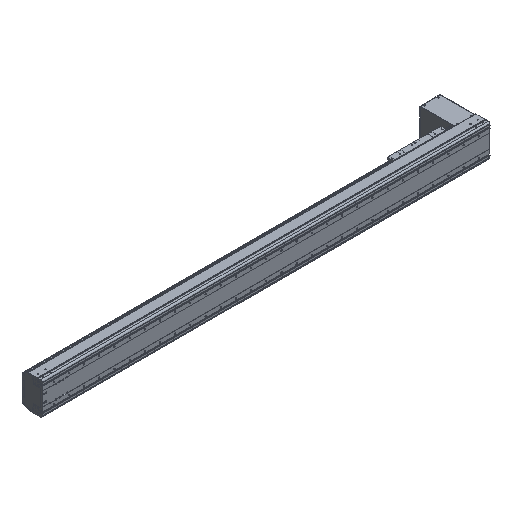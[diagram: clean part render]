
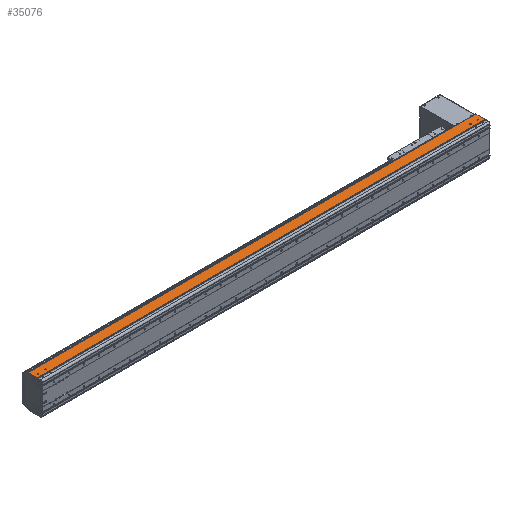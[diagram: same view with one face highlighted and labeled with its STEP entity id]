
A CAD part, isometric view. The second image highlights one B-rep face of the part: STEP entity #35076.
In plain terms, the highlighted planar face has unit normal (0, 0, 1).
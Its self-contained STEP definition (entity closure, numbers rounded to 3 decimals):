
#9352=DIRECTION('',(-1.,-0.006,-0.017));
#9353=VECTOR('',#9352,1.5);
#9354=CARTESIAN_POINT('',(1.5,94.,107.));
#9355=LINE('',#9354,#9353);
#9356=DIRECTION('',(-1.,0.,0.));
#9357=VECTOR('',#9356,2948.5);
#9358=CARTESIAN_POINT('',(0.,93.5,107.));
#9359=LINE('',#9358,#9357);
#9394=CARTESIAN_POINT('',(0.,93.992,106.974));
#9395=CARTESIAN_POINT('',(0.,93.906,
106.974));
#9396=CARTESIAN_POINT('',(0.,93.75,
107.013));
#9397=CARTESIAN_POINT('',(0.,93.581,107.));
#9398=CARTESIAN_POINT('',(0.,93.5,107.));
#9400=CARTESIAN_POINT('',(-2923.5,54.,107.));
#9401=DIRECTION('',(0.,0.,-1.));
#9402=DIRECTION('',(1.,0.,0.));
#9403=AXIS2_PLACEMENT_3D('',#9400,#9401,#9402);
#9405=CARTESIAN_POINT('',(-2923.5,54.,107.));
#9406=DIRECTION('',(0.,0.,-1.));
#9407=DIRECTION('',(-1.,0.,0.));
#9408=AXIS2_PLACEMENT_3D('',#9405,#9406,#9407);
#9410=CARTESIAN_POINT('',(-2873.5,54.,107.));
#9411=DIRECTION('',(0.,0.,-1.));
#9412=DIRECTION('',(1.,0.,0.));
#9413=AXIS2_PLACEMENT_3D('',#9410,#9411,#9412);
#9415=CARTESIAN_POINT('',(-2873.5,54.,107.));
#9416=DIRECTION('',(0.,0.,-1.));
#9417=DIRECTION('',(-1.,0.,0.));
#9418=AXIS2_PLACEMENT_3D('',#9415,#9416,#9417);
#9420=CARTESIAN_POINT('',(-23.5,54.,107.));
#9421=DIRECTION('',(0.,0.,-1.));
#9422=DIRECTION('',(1.,0.,0.));
#9423=AXIS2_PLACEMENT_3D('',#9420,#9421,#9422);
#9425=CARTESIAN_POINT('',(-23.5,54.,107.));
#9426=DIRECTION('',(0.,0.,-1.));
#9427=DIRECTION('',(-1.,0.,0.));
#9428=AXIS2_PLACEMENT_3D('',#9425,#9426,#9427);
#9430=CARTESIAN_POINT('',(-73.5,54.,107.));
#9431=DIRECTION('',(0.,0.,-1.));
#9432=DIRECTION('',(1.,0.,0.));
#9433=AXIS2_PLACEMENT_3D('',#9430,#9431,#9432);
#9435=CARTESIAN_POINT('',(-73.5,54.,107.));
#9436=DIRECTION('',(0.,0.,-1.));
#9437=DIRECTION('',(-1.,0.,0.));
#9438=AXIS2_PLACEMENT_3D('',#9435,#9436,#9437);
#9440=DIRECTION('',(0.,-1.,0.));
#9441=VECTOR('',#9440,2.55);
#9442=CARTESIAN_POINT('',(-2946.5,34.65,107.));
#9443=LINE('',#9442,#9441);
#9444=DIRECTION('',(0.,-1.,0.));
#9445=VECTOR('',#9444,58.85);
#9446=CARTESIAN_POINT('',(-2948.5,93.5,107.));
#9447=LINE('',#9446,#9445);
#9448=DIRECTION('',(0.,1.,0.));
#9449=VECTOR('',#9448,58.35);
#9450=CARTESIAN_POINT('',(1.5,35.65,107.));
#9451=LINE('',#9450,#9449);
#9452=DIRECTION('',(0.,1.,0.));
#9453=VECTOR('',#9452,3.55);
#9454=CARTESIAN_POINT('',(0.,32.1,107.));
#9455=LINE('',#9454,#9453);
#9456=DIRECTION('',(1.,0.,0.));
#9457=VECTOR('',#9456,2946.5);
#9458=CARTESIAN_POINT('',(-2946.5,32.1,107.));
#9459=LINE('',#9458,#9457);
#9568=DIRECTION('',(1.,0.,0.));
#9569=VECTOR('',#9568,2.);
#9570=CARTESIAN_POINT('',(-2948.5,34.65,107.));
#9571=LINE('',#9570,#9569);
#9592=DIRECTION('',(1.,0.,0.));
#9593=VECTOR('',#9592,1.5);
#9594=CARTESIAN_POINT('',(0.,35.65,107.));
#9595=LINE('',#9594,#9593);
#19426=CARTESIAN_POINT('',(1.5,94.,107.));
#19427=VERTEX_POINT('',#19426);
#19428=CARTESIAN_POINT('',(1.5,35.65,107.));
#19429=VERTEX_POINT('',#19428);
#19498=CARTESIAN_POINT('',(-2948.5,34.65,107.));
#19499=VERTEX_POINT('',#19498);
#19500=CARTESIAN_POINT('',(-2948.5,93.5,107.));
#19501=VERTEX_POINT('',#19500);
#19726=CARTESIAN_POINT('',(-2946.5,32.1,107.));
#19727=VERTEX_POINT('',#19726);
#19777=CARTESIAN_POINT('',(0.,32.1,107.));
#19779=VERTEX_POINT('',#19777);
#20464=CARTESIAN_POINT('',(-2921.,54.,107.));
#20465=CARTESIAN_POINT('',(-2926.,54.,107.));
#20466=VERTEX_POINT('',#20464);
#20467=VERTEX_POINT('',#20465);
#20468=CARTESIAN_POINT('',(-2871.,54.,107.));
#20469=CARTESIAN_POINT('',(-2876.,54.,107.));
#20470=VERTEX_POINT('',#20468);
#20471=VERTEX_POINT('',#20469);
#20472=CARTESIAN_POINT('',(-21.,54.,107.));
#20473=CARTESIAN_POINT('',(-26.,54.,107.));
#20474=VERTEX_POINT('',#20472);
#20475=VERTEX_POINT('',#20473);
#20476=CARTESIAN_POINT('',(-71.,54.,107.));
#20477=CARTESIAN_POINT('',(-76.,54.,107.));
#20478=VERTEX_POINT('',#20476);
#20479=VERTEX_POINT('',#20477);
#23018=CARTESIAN_POINT('',(0.,35.65,107.));
#23019=VERTEX_POINT('',#23018);
#23020=CARTESIAN_POINT('',(0.,93.975,106.923));
#23022=VERTEX_POINT('',#23020);
#23165=VERTEX_POINT('',#9398);
#23621=CARTESIAN_POINT('',(-2946.5,34.65,107.));
#23622=VERTEX_POINT('',#23621);
#35032=CARTESIAN_POINT('',(-1473.25,62.8,107.));
#35033=DIRECTION('',(0.,0.,1.));
#35034=DIRECTION('',(0.,-1.,0.));
#35035=AXIS2_PLACEMENT_3D('',#35032,#35033,#35034);
#35036=PLANE('',#35035);
#35037=ORIENTED_EDGE('',*,*,#25503,.F.);
#35039=ORIENTED_EDGE('',*,*,#35038,.F.);
#35040=ORIENTED_EDGE('',*,*,#27765,.F.);
#35041=ORIENTED_EDGE('',*,*,#35016,.F.);
#35042=ORIENTED_EDGE('',*,*,#35027,.F.);
#35043=ORIENTED_EDGE('',*,*,#35006,.F.);
#35044=ORIENTED_EDGE('',*,*,#24431,.F.);
#35046=ORIENTED_EDGE('',*,*,#35045,.F.);
#35047=ORIENTED_EDGE('',*,*,#26260,.F.);
#35049=ORIENTED_EDGE('',*,*,#35048,.F.);
#35050=EDGE_LOOP('',(#35037,#35039,#35040,#35041,#35042,#35043,#35044,#35046,
#35047,#35049));
#35051=FACE_OUTER_BOUND('',#35050,.F.);
#35053=ORIENTED_EDGE('',*,*,#35052,.F.);
#35055=ORIENTED_EDGE('',*,*,#35054,.F.);
#35056=EDGE_LOOP('',(#35053,#35055));
#35057=FACE_BOUND('',#35056,.F.);
#35059=ORIENTED_EDGE('',*,*,#35058,.F.);
#35061=ORIENTED_EDGE('',*,*,#35060,.F.);
#35062=EDGE_LOOP('',(#35059,#35061));
#35063=FACE_BOUND('',#35062,.F.);
#35065=ORIENTED_EDGE('',*,*,#35064,.F.);
#35067=ORIENTED_EDGE('',*,*,#35066,.F.);
#35068=EDGE_LOOP('',(#35065,#35067));
#35069=FACE_BOUND('',#35068,.F.);
#35071=ORIENTED_EDGE('',*,*,#35070,.F.);
#35073=ORIENTED_EDGE('',*,*,#35072,.F.);
#35074=EDGE_LOOP('',(#35071,#35073));
#35075=FACE_BOUND('',#35074,.F.);
#35076=ADVANCED_FACE('',(#35051,#35057,#35063,#35069,#35075),#35036,.T.);
#9399=B_SPLINE_CURVE_WITH_KNOTS('',3,(#9394,#9395,#9396,#9397,#9398),
.UNSPECIFIED.,.F.,.F.,(4,1,4),(0.,0.5,1.),.UNSPECIFIED.);
#9404=CIRCLE('',#9403,2.5);
#9409=CIRCLE('',#9408,2.5);
#9414=CIRCLE('',#9413,2.5);
#9419=CIRCLE('',#9418,2.5);
#9424=CIRCLE('',#9423,2.5);
#9429=CIRCLE('',#9428,2.5);
#9434=CIRCLE('',#9433,2.5);
#9439=CIRCLE('',#9438,2.5);
#24431=EDGE_CURVE('',#19429,#19427,#9451,.T.);
#25503=EDGE_CURVE('',#23622,#19727,#9443,.T.);
#26260=EDGE_CURVE('',#19779,#23019,#9455,.T.);
#27765=EDGE_CURVE('',#19501,#19499,#9447,.T.);
#35006=EDGE_CURVE('',#19427,#23022,#9355,.T.);
#35016=EDGE_CURVE('',#23165,#19501,#9359,.T.);
#35027=EDGE_CURVE('',#23022,#23165,#9399,.T.);
#35038=EDGE_CURVE('',#19499,#23622,#9571,.T.);
#35045=EDGE_CURVE('',#23019,#19429,#9595,.T.);
#35048=EDGE_CURVE('',#19727,#19779,#9459,.T.);
#35052=EDGE_CURVE('',#20470,#20471,#9414,.T.);
#35054=EDGE_CURVE('',#20471,#20470,#9419,.T.);
#35058=EDGE_CURVE('',#20474,#20475,#9424,.T.);
#35060=EDGE_CURVE('',#20475,#20474,#9429,.T.);
#35064=EDGE_CURVE('',#20478,#20479,#9434,.T.);
#35066=EDGE_CURVE('',#20479,#20478,#9439,.T.);
#35070=EDGE_CURVE('',#20466,#20467,#9404,.T.);
#35072=EDGE_CURVE('',#20467,#20466,#9409,.T.);
